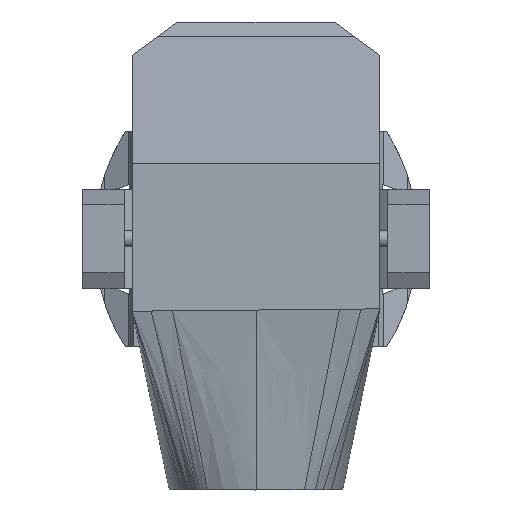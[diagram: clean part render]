
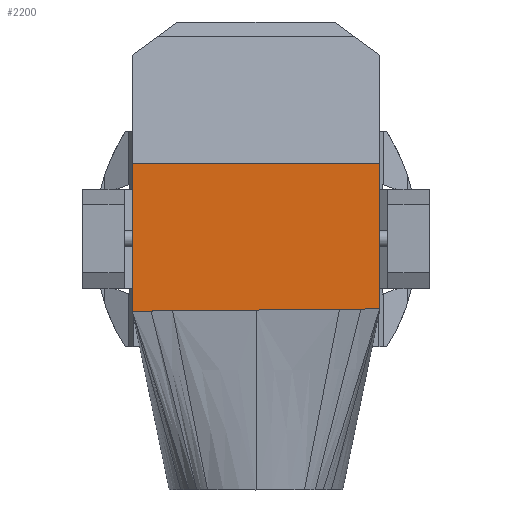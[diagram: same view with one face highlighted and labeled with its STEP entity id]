
A CAD part, top view. The second image highlights one B-rep face of the part: STEP entity #2200.
In plain terms, the highlighted planar face has unit normal (0, -0.013, 1) as drawn and (0, 1, 0.013) by its records, which use the part's own axes.
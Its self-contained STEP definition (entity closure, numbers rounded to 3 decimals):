
#141=PLANE('',#2347);
#218=FACE_OUTER_BOUND('',#338,.T.);
#338=EDGE_LOOP('',(#1556,#1557,#1558,#1559));
#464=LINE('',#3075,#702);
#479=LINE('',#3105,#717);
#488=LINE('',#3122,#726);
#494=LINE('',#3133,#732);
#702=VECTOR('',#2515,10.);
#717=VECTOR('',#2534,10.);
#726=VECTOR('',#2545,10.);
#732=VECTOR('',#2555,10.);
#961=VERTEX_POINT('',#3072);
#962=VERTEX_POINT('',#3074);
#975=VERTEX_POINT('',#3104);
#982=VERTEX_POINT('',#3120);
#1183=EDGE_CURVE('',#961,#962,#464,.T.);
#1198=EDGE_CURVE('',#962,#975,#479,.T.);
#1207=EDGE_CURVE('',#982,#961,#488,.T.);
#1213=EDGE_CURVE('',#975,#982,#494,.T.);
#1556=ORIENTED_EDGE('',*,*,#1198,.F.);
#1557=ORIENTED_EDGE('',*,*,#1183,.F.);
#1558=ORIENTED_EDGE('',*,*,#1207,.F.);
#1559=ORIENTED_EDGE('',*,*,#1213,.F.);
#2200=ADVANCED_FACE('',(#218),#141,.F.);
#2347=AXIS2_PLACEMENT_3D('',#3132,#2553,#2554);
#2515=DIRECTION('',(-1.,0.,0.009));
#2534=DIRECTION('',(0.,0.013,-1.));
#2545=DIRECTION('',(0.,-0.013,1.));
#2553=DIRECTION('center_axis',(0.,-1.,-0.013));
#2554=DIRECTION('ref_axis',(0.,0.013,-1.));
#2555=DIRECTION('',(1.,0.,0.));
#3072=CARTESIAN_POINT('',(154.609,137.065,544.436));
#3074=CARTESIAN_POINT('',(-154.609,137.027,547.344));
#3075=CARTESIAN_POINT('',(0.317,137.046,545.887));
#3104=CARTESIAN_POINT('',(-154.609,139.472,362.158));
#3105=CARTESIAN_POINT('',(-154.609,139.148,386.662));
#3120=CARTESIAN_POINT('',(154.609,139.472,362.158));
#3122=CARTESIAN_POINT('',(154.609,137.034,546.796));
#3132=CARTESIAN_POINT('Origin',(0.,137.065,544.436));
#3133=CARTESIAN_POINT('',(0.,139.472,362.158));
